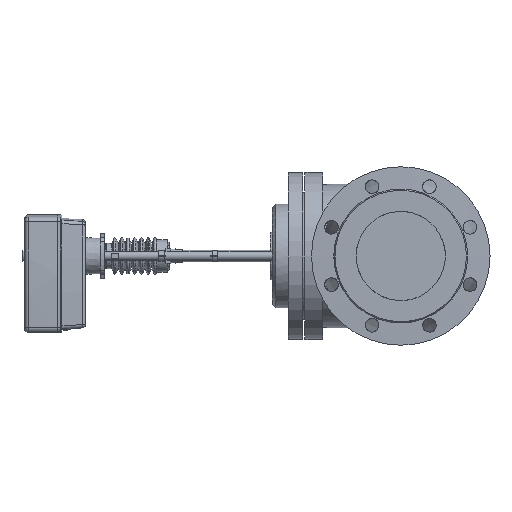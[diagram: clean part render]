
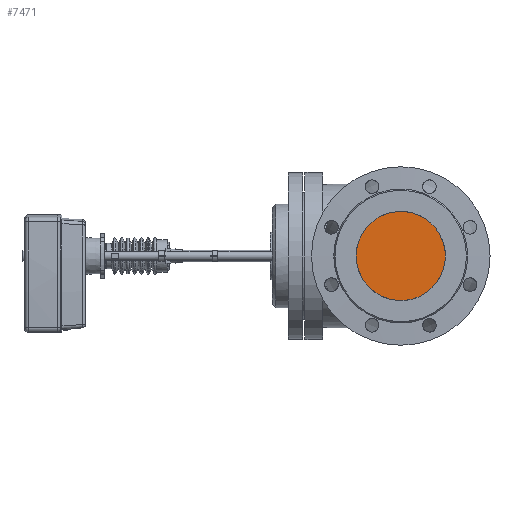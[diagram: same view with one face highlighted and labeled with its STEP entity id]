
A CAD part, left-side view. The second image highlights one B-rep face of the part: STEP entity #7471.
In plain terms, the highlighted planar face has unit normal (-1, 0, 0).
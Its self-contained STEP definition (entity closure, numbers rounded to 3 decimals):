
#898=PLANE('',#7981);
#978=B_SPLINE_CURVE_WITH_KNOTS('',3,(#11568,#11569,#11570,#11571,#11572,
#11573,#11574,#11575,#11576,#11577,#11578,#11579,#11580,#11581,#11582,#11583,
#11584,#11585,#11586,#11587,#11588,#11589,#11590,#11591,#11592,#11593,#11594,
#11595,#11596,#11597,#11598),.UNSPECIFIED.,.F.,.F.,(4,1,1,1,1,1,1,1,1,1,
1,1,1,1,1,1,1,1,1,1,1,1,1,1,1,1,1,1,4),(0.,0.031,0.047,0.063,0.094,
0.125,0.141,0.156,0.188,0.219,0.25,0.281,0.313,0.375,0.438,
0.5,0.531,0.563,0.594,0.625,0.656,0.688,0.75,0.781,0.813,0.875,
0.906,0.938,1.),.UNSPECIFIED.);
#979=B_SPLINE_CURVE_WITH_KNOTS('',3,(#11601,#11602,#11603,#11604,#11605,
#11606,#11607,#11608,#11609,#11610,#11611,#11612,#11613,#11614,#11615,#11616,
#11617,#11618,#11619,#11620,#11621,#11622,#11623,#11624,#11625,#11626,#11627),
 .UNSPECIFIED.,.F.,.F.,(4,1,1,1,1,1,1,1,1,1,1,1,1,1,1,1,1,1,1,1,1,1,1,1,
4),(0.,0.063,0.125,0.188,0.219,0.25,0.313,0.344,0.375,0.406,0.438,
0.5,0.563,0.594,0.625,0.656,0.688,0.75,0.781,0.813,0.844,0.875,
0.906,0.938,1.),.UNSPECIFIED.);
#1955=ORIENTED_EDGE('',*,*,#2928,.F.);
#1956=ORIENTED_EDGE('',*,*,#2929,.F.);
#2928=EDGE_CURVE('',#3512,#3513,#978,.F.);
#2929=EDGE_CURVE('',#3513,#3512,#979,.F.);
#3512=VERTEX_POINT('',#11599);
#3513=VERTEX_POINT('',#11600);
#4246=EDGE_LOOP('',(#1955,#1956));
#4711=FACE_BOUND('',#4246,.T.);
#7471=ADVANCED_FACE('',(#4711),#898,.F.);
#7981=AXIS2_PLACEMENT_3D('',#11567,#9198,#9199);
#9198=DIRECTION('',(1.,0.,0.));
#9199=DIRECTION('',(0.,0.,-1.));
#11567=CARTESIAN_POINT('',(-275.357,-36.248,-99.629));
#11568=CARTESIAN_POINT('',(-275.357,-99.33,-99.629));
#11569=CARTESIAN_POINT('',(-275.357,-99.33,-97.57));
#11570=CARTESIAN_POINT('',(-275.357,-99.177,-94.489));
#11571=CARTESIAN_POINT('',(-275.357,-98.671,-90.411));
#11572=CARTESIAN_POINT('',(-275.357,-97.958,-86.323));
#11573=CARTESIAN_POINT('',(-275.357,-96.72,-81.413));
#11574=CARTESIAN_POINT('',(-275.357,-95.002,-76.629));
#11575=CARTESIAN_POINT('',(-275.357,-93.313,-72.828));
#11576=CARTESIAN_POINT('',(-275.357,-91.471,-69.169));
#11577=CARTESIAN_POINT('',(-275.357,-88.854,-64.802));
#11578=CARTESIAN_POINT('',(-275.357,-85.227,-59.917));
#11579=CARTESIAN_POINT('',(-275.357,-81.084,-55.355));
#11580=CARTESIAN_POINT('',(-275.357,-76.528,-51.226));
#11581=CARTESIAN_POINT('',(-275.357,-69.948,-46.35));
#11582=CARTESIAN_POINT('',(-275.357,-60.885,-41.511));
#11583=CARTESIAN_POINT('',(-275.357,-49.141,-37.944));
#11584=CARTESIAN_POINT('',(-275.357,-38.887,-36.928));
#11585=CARTESIAN_POINT('',(-275.357,-30.652,-37.331));
#11586=CARTESIAN_POINT('',(-275.357,-24.515,-38.252));
#11587=CARTESIAN_POINT('',(-275.357,-18.578,-39.748));
#11588=CARTESIAN_POINT('',(-275.357,-12.789,-41.83));
#11589=CARTESIAN_POINT('',(-275.357,-7.248,-44.458));
#11590=CARTESIAN_POINT('',(-275.357,-0.212,-48.691));
#11591=CARTESIAN_POINT('',(-275.357,6.089,-53.876));
#11592=CARTESIAN_POINT('',(-275.357,11.586,-59.945));
#11593=CARTESIAN_POINT('',(-275.357,16.487,-66.571));
#11594=CARTESIAN_POINT('',(-275.357,20.311,-73.733));
#11595=CARTESIAN_POINT('',(-275.357,23.085,-81.489));
#11596=CARTESIAN_POINT('',(-275.357,25.068,-89.425));
#11597=CARTESIAN_POINT('',(-275.357,25.67,-95.53));
#11598=CARTESIAN_POINT('',(-275.357,25.67,-99.629));
#11599=CARTESIAN_POINT('',(-275.357,25.67,-99.629));
#11600=CARTESIAN_POINT('',(-275.357,-99.33,-99.629));
#11601=CARTESIAN_POINT('',(-275.357,25.67,-99.629));
#11602=CARTESIAN_POINT('',(-275.357,25.67,-103.728));
#11603=CARTESIAN_POINT('',(-275.357,24.872,-111.86));
#11604=CARTESIAN_POINT('',(-275.357,21.285,-123.703));
#11605=CARTESIAN_POINT('',(-275.357,16.468,-132.718));
#11606=CARTESIAN_POINT('',(-275.357,11.591,-139.309));
#11607=CARTESIAN_POINT('',(-275.357,6.051,-145.422));
#11608=CARTESIAN_POINT('',(-275.357,-0.229,-150.582));
#11609=CARTESIAN_POINT('',(-275.357,-7.303,-154.83));
#11610=CARTESIAN_POINT('',(-275.357,-12.847,-157.453));
#11611=CARTESIAN_POINT('',(-275.357,-18.636,-159.529));
#11612=CARTESIAN_POINT('',(-275.357,-26.554,-161.517));
#11613=CARTESIAN_POINT('',(-275.357,-36.893,-162.534));
#11614=CARTESIAN_POINT('',(-275.357,-47.042,-161.526));
#11615=CARTESIAN_POINT('',(-275.357,-55.011,-159.533));
#11616=CARTESIAN_POINT('',(-275.357,-60.794,-157.46));
#11617=CARTESIAN_POINT('',(-275.357,-66.347,-154.835));
#11618=CARTESIAN_POINT('',(-275.357,-73.395,-150.605));
#11619=CARTESIAN_POINT('',(-275.357,-79.704,-145.425));
#11620=CARTESIAN_POINT('',(-275.357,-85.226,-139.34));
#11621=CARTESIAN_POINT('',(-275.357,-88.903,-134.373));
#11622=CARTESIAN_POINT('',(-275.357,-92.029,-129.152));
#11623=CARTESIAN_POINT('',(-275.357,-94.651,-123.601));
#11624=CARTESIAN_POINT('',(-275.357,-96.743,-117.77));
#11625=CARTESIAN_POINT('',(-275.357,-98.724,-109.851));
#11626=CARTESIAN_POINT('',(-275.357,-99.33,-103.728));
#11627=CARTESIAN_POINT('',(-275.357,-99.33,-99.629));
